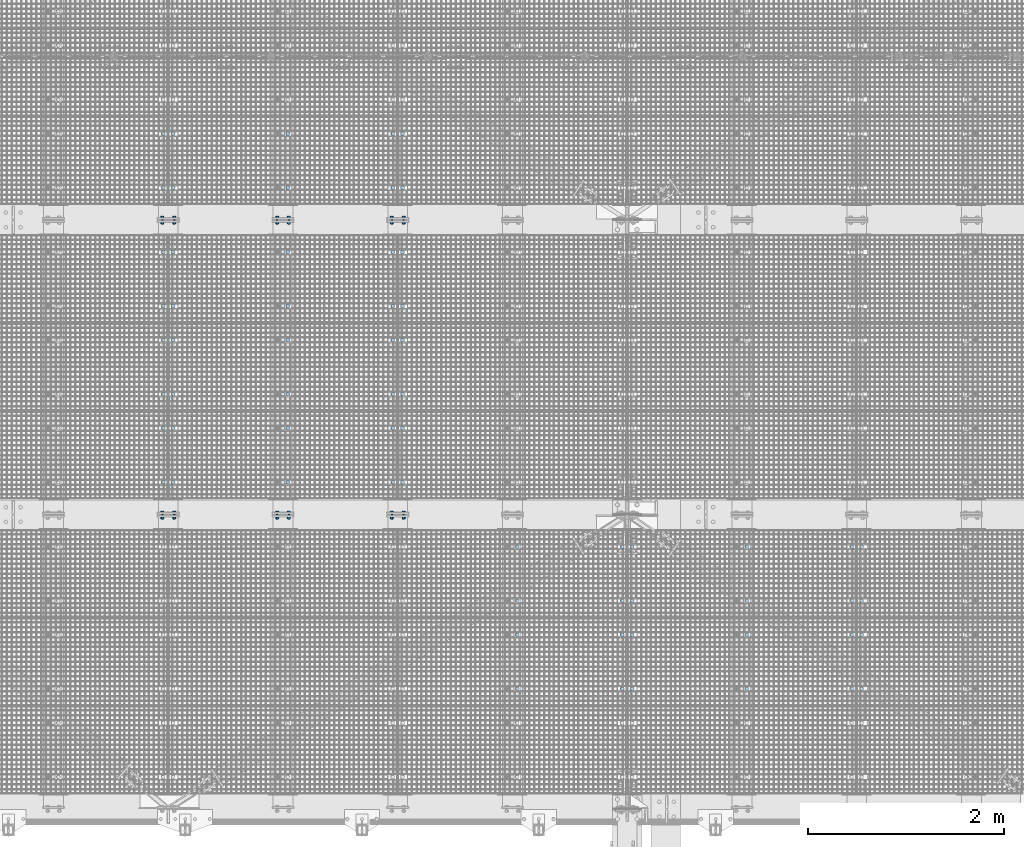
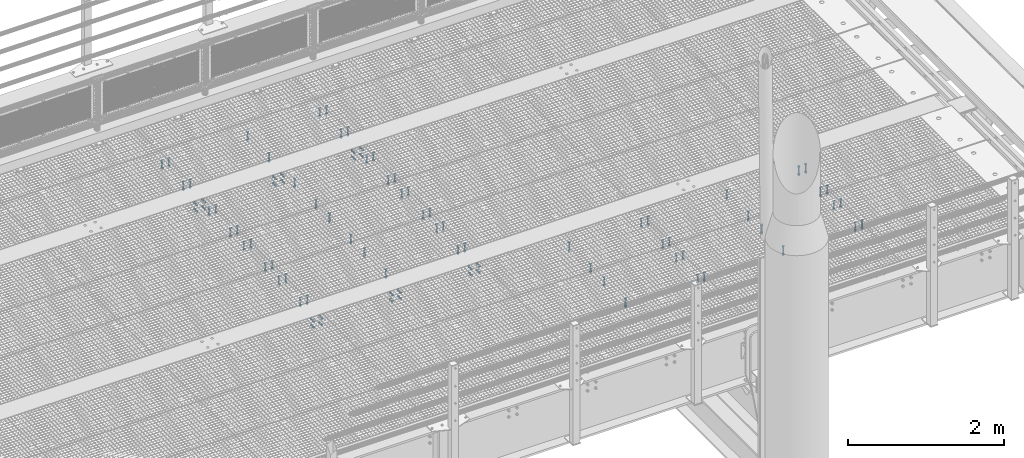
# One storey, part 26 of 1530: 38 mechanical fasteners.
"""IFC2X3 building model written with IfcOpenShell, lengths in millimetres."""

from ifc_helpers import new_model, si_unit, frame, origin_with_axes, place, context, subcontext, project, spatial, faceted_brep, source, transform, mapped, material, type_object, element, save


model = new_model("IFC2X3")

# Units and contexts
model_context = context("Model", 3, precision=1e-05, world=origin_with_axes())
body_context = subcontext(model_context, "Body", "Model", "MODEL_VIEW")
ifc_project = project(units=[si_unit("LENGTHUNIT", "METRE", prefix="MILLI"), si_unit("AREAUNIT", "SQUARE_METRE"), si_unit("VOLUMEUNIT", "CUBIC_METRE"), si_unit("MASSUNIT", "GRAM", prefix="KILO"), si_unit("TIMEUNIT", "SECOND"), si_unit("PLANEANGLEUNIT", "RADIAN"), si_unit("SOLIDANGLEUNIT", "STERADIAN"), si_unit("THERMODYNAMICTEMPERATUREUNIT", "DEGREE_CELSIUS"), si_unit("LUMINOUSINTENSITYUNIT", "LUMEN")], contexts=[model_context])

# Site, building, storey
site_placement = place(None, origin_with_axes())
site = spatial("IfcSite", under=ifc_project, at=site_placement, Name="Brattvåg", CompositionType="ELEMENT")
building_placement = place(site_placement, origin_with_axes())
building = spatial("IfcBuilding", under=site, at=building_placement, Name="Undefined", CompositionType="ELEMENT")
storey_placement = place(building_placement, origin_with_axes())
storey = spatial("IfcBuildingStorey", under=building, at=storey_placement, Name="Undefined", CompositionType="ELEMENT", Elevation=0.0)

# Mechanical fasteners
ifc_material = material(Name="8")
mechanical_fastener_type = type_object("IfcMechanicalFastenerType", Name="Bolt assembly")
shared_shape_1 = source(origin_with_axes(), body_context, "Body", "Brep", [
    faceted_brep([(17.3205080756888, -10.5, 0.0), (8.66025403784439, -10.5, 15.0), (-8.66025403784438, -10.5, 15.0), (-17.3205080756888, -10.5, 2.12115047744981e-15), (-8.66025403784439, -10.5, -15.0), (8.66025403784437, -10.5, -15.0), (8.66025403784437, 2.0, -15.0), (-8.66025403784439, 2.0, -15.0), (-17.3205080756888, 2.0, 2.12115047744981e-15), (-8.66025403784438, 2.0, 15.0), (8.66025403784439, 2.0, 15.0), (17.3205080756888, 2.0, 0.0), (10.0, 2.0, 0.0), (8.66025403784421, 2.0, 5.0000000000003), (4.9999999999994, 2.0, 8.66025403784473), (-1.03633598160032e-12, 2.0, 10.0), (-5.00000000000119, 2.0, 8.6602540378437), (-8.66025403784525, 2.0, 4.99999999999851), (-10.0, 2.0, -2.07267196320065e-12), (-8.66025403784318, 2.0, -5.00000000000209), (-4.99999999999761, 2.0, -8.66025403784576), (3.09790571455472e-12, 2.0, -10.0), (5.00000000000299, 2.0, -8.66025403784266), (8.66025403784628, 2.0, -4.99999999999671), (8.66025403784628, 142.0, -4.99999999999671), (5.00000000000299, 142.0, -8.66025403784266), (3.09790571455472e-12, 142.0, -10.0), (-4.99999999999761, 142.0, -8.66025403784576), (-8.66025403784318, 142.0, -5.00000000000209), (-10.0, 142.0, -2.07267196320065e-12), (-8.66025403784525, 142.0, 4.99999999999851), (-5.00000000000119, 142.0, 8.6602540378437), (-1.03633598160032e-12, 142.0, 10.0), (4.9999999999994, 142.0, 8.66025403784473), (8.66025403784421, 142.0, 5.0000000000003), (10.0, 142.0, 0.0), (18.5, 2.0, 0.0), (16.0214699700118, 2.0, 9.25000000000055), (9.2499999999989, 2.0, 16.0214699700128), (-1.9172215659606e-12, 2.0, 18.5), (-9.25000000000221, 2.0, 16.0214699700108), (-16.0214699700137, 2.0, 9.24999999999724), (-18.5, 2.0, -3.83444313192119e-12), (-16.0214699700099, 2.0, -9.25000000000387), (-9.24999999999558, 2.0, -16.0214699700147), (5.73112557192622e-12, 2.0, -18.5), (9.25000000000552, 2.0, -16.0214699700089), (16.0214699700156, 2.0, -9.24999999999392), (16.0214699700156, 5.0, -9.24999999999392), (9.25000000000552, 5.0, -16.0214699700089), (5.73112557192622e-12, 5.0, -18.5), (-9.24999999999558, 5.0, -16.0214699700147), (-16.0214699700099, 5.0, -9.25000000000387), (-18.5, 5.0, -3.83444313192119e-12), (-16.0214699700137, 5.0, 9.24999999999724), (-9.25000000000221, 5.0, 16.0214699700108), (-1.9172215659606e-12, 5.0, 18.5), (9.2499999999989, 5.0, 16.0214699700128), (16.0214699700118, 5.0, 9.25000000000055), (18.5, 5.0, 0.0), (18.5, 109.998931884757, 0.0), (16.0214699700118, 109.998931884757, 9.25000000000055), (9.2499999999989, 109.998931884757, 16.0214699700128), (-1.9172215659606e-12, 109.998931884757, 18.5), (-9.25000000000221, 109.998931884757, 16.0214699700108), (-16.0214699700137, 109.998931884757, 9.24999999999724), (-18.5, 109.998931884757, -3.83444313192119e-12), (-16.0214699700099, 109.998931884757, -9.25000000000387), (-9.24999999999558, 109.998931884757, -16.0214699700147), (5.73112557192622e-12, 109.998931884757, -18.5), (9.25000000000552, 109.998931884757, -16.0214699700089), (16.0214699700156, 109.998931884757, -9.24999999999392), (16.0214699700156, 112.998931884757, -9.24999999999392), (9.25000000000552, 112.998931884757, -16.0214699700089), (5.73112557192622e-12, 112.998931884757, -18.5), (-9.24999999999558, 112.998931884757, -16.0214699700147), (-16.0214699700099, 112.998931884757, -9.25000000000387), (-18.5, 112.998931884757, -3.83444313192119e-12), (-16.0214699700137, 112.998931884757, 9.24999999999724), (-9.25000000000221, 112.998931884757, 16.0214699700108), (-1.9172215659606e-12, 112.998931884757, 18.5), (9.2499999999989, 112.998931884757, 16.0214699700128), (16.0214699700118, 112.998931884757, 9.25000000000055), (18.5, 112.998931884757, 0.0), (17.3205080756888, 112.998931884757, 0.0), (8.66025403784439, 112.998931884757, 15.0), (-8.66025403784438, 112.998931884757, 15.0), (-17.3205080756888, 112.998931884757, 2.12115047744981e-15), (-8.66025403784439, 112.998931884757, -15.0), (8.66025403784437, 112.998931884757, -15.0), (8.66025403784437, 130.998931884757, -15.0), (-8.66025403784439, 130.998931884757, -15.0), (-17.3205080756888, 130.998931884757, 2.12115047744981e-15), (-8.66025403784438, 130.998931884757, 15.0), (8.66025403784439, 130.998931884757, 15.0), (17.3205080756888, 130.998931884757, 0.0)], [[[0, 1, 2, 3, 4, 5]], [[6, 7, 8, 9, 10, 11]], [[0, 11, 10, 1]], [[1, 10, 9, 2]], [[2, 9, 8, 3]], [[3, 8, 7, 4]], [[4, 7, 6, 5]], [[5, 6, 11, 0]], [[12, 13, 14, 15, 16, 17, 18, 19, 20, 21, 22, 23]], [[24, 25, 26, 27, 28, 29, 30, 31, 32, 33, 34, 35]], [[12, 35, 34, 13]], [[13, 34, 33, 14]], [[14, 33, 32, 15]], [[15, 32, 31, 16]], [[16, 31, 30, 17]], [[17, 30, 29, 18]], [[18, 29, 28, 19]], [[19, 28, 27, 20]], [[20, 27, 26, 21]], [[21, 26, 25, 22]], [[22, 25, 24, 23]], [[23, 24, 35, 12]], [[36, 37, 38, 39, 40, 41, 42, 43, 44, 45, 46, 47]], [[48, 49, 50, 51, 52, 53, 54, 55, 56, 57, 58, 59]], [[36, 59, 58, 37]], [[37, 58, 57, 38]], [[38, 57, 56, 39]], [[39, 56, 55, 40]], [[40, 55, 54, 41]], [[41, 54, 53, 42]], [[42, 53, 52, 43]], [[43, 52, 51, 44]], [[44, 51, 50, 45]], [[45, 50, 49, 46]], [[46, 49, 48, 47]], [[47, 48, 59, 36]], [[60, 61, 62, 63, 64, 65, 66, 67, 68, 69, 70, 71]], [[72, 73, 74, 75, 76, 77, 78, 79, 80, 81, 82, 83]], [[60, 83, 82, 61]], [[61, 82, 81, 62]], [[62, 81, 80, 63]], [[63, 80, 79, 64]], [[64, 79, 78, 65]], [[65, 78, 77, 66]], [[66, 77, 76, 67]], [[67, 76, 75, 68]], [[68, 75, 74, 69]], [[69, 74, 73, 70]], [[70, 73, 72, 71]], [[71, 72, 83, 60]], [[84, 85, 86, 87, 88, 89]], [[90, 91, 92, 93, 94, 95]], [[84, 95, 94, 85]], [[85, 94, 93, 86]], [[86, 93, 92, 87]], [[87, 92, 91, 88]], [[88, 91, 90, 89]], [[89, 90, 95, 84]]]),
])
for number, where, z_axis, x_axis, name in (
    (1, (14636.0047793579, 2121.91931152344, -25.0), (-1.0, 1.99999855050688e-09, 0.0), (0.0, 1.0, 0.0), "Bolt assembly"),
    (2, (14636.0047793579, 1224.91931152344, -25.0), (-1.0, 1.99999855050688e-09, 0.0), (0.0, 1.0, 0.0), "Bolt assembly"),
    (3, (9964.00477935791, 6327.91931152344, -25.0), (-1.0, 1.99999855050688e-09, 0.0), (0.0, 1.0, 0.0), "Bolt assembly"),
    (4, (9864.01487731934, 6327.9204864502, -25.0), (-1.0, 1.99999855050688e-09, 0.0), (0.0, 1.0, 0.0), "Bolt assembly"),
    (5, (8796.01192543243, 6327.99, -25.0), (-1.0, 1.99999855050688e-09, 0.0), (0.0, 1.0, 0.0), "Bolt assembly"),
    (6, (7628.00477935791, 6327.91931152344, -25.0), (-1.0, 1.99999855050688e-09, 0.0), (0.0, 1.0, 0.0), "Bolt assembly"),
    (7, (7528.01487731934, 6327.9204864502, -25.0), (-1.0, 1.99999855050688e-09, 0.0), (0.0, 1.0, 0.0), "Bolt assembly"),
    (8, (9964.00477935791, 5121.91931152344, -25.0), (-1.0, 1.99999855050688e-09, 0.0), (0.0, 1.0, 0.0), "Bolt assembly"),
    (9, (9864.01487731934, 5121.9204864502, -25.0), (-1.0, 1.99999855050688e-09, 0.0), (0.0, 1.0, 0.0), "Bolt assembly"),
    (10, (8796.01192543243, 5121.99, -25.0), (-1.0, 1.99999855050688e-09, 0.0), (0.0, 1.0, 0.0), "Bolt assembly"),
    (11, (7628.00477935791, 5121.91931152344, -25.0), (-1.0, 1.99999855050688e-09, 0.0), (0.0, 1.0, 0.0), "Bolt assembly"),
    (12, (7528.01487731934, 5121.9204864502, -25.0), (-1.0, 1.99999855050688e-09, 0.0), (0.0, 1.0, 0.0), "Bolt assembly"),
    (13, (9964.00477935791, 4224.91931152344, -25.0), (-1.0, 1.99999855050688e-09, 0.0), (0.0, 1.0, 0.0), "Bolt assembly"),
    (14, (9864.01487731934, 4224.9204864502, -25.0), (-1.0, 1.99999855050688e-09, 0.0), (0.0, 1.0, 0.0), "Bolt assembly"),
    (15, (8796.01192543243, 4224.99, -25.0), (-1.0, 1.99999855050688e-09, 0.0), (0.0, 1.0, 0.0), "Bolt assembly"),
    (16, (7628.00477935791, 4224.91931152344, -25.0), (-1.0, 1.99999855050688e-09, 0.0), (0.0, 1.0, 0.0), "Bolt assembly"),
    (17, (7528.01487731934, 4224.9204864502, -25.0), (-1.0, 1.99999855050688e-09, 0.0), (0.0, 1.0, 0.0), "Bolt assembly"),
    (18, (9964.00477935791, 3327.91931152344, -25.0), (-1.0, 1.99999855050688e-09, 0.0), (0.0, 1.0, 0.0), "Bolt assembly"),
    (19, (9864.01487731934, 3327.9204864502, -25.0), (-1.0, 1.99999855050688e-09, 0.0), (0.0, 1.0, 0.0), "Bolt assembly"),
    (20, (8796.01192543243, 3327.99, -25.0), (-1.0, 1.99999855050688e-09, 0.0), (0.0, 1.0, 0.0), "Bolt assembly"),
    (21, (7628.00477935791, 3327.91931152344, -25.0), (-1.0, 1.99999855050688e-09, 0.0), (0.0, 1.0, 0.0), "Bolt assembly"),
    (22, (7528.01487731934, 3327.9204864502, -25.0), (-1.0, 1.99999855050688e-09, 0.0), (0.0, 1.0, 0.0), "Bolt assembly"),
    (23, (14536.0148773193, 2121.9204864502, -25.0), (-1.0, 1.99999855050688e-09, 0.0), (0.0, 1.0, 0.0), "Bolt assembly"),
    (24, (13468.0119254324, 2121.99, -25.0), (-1.0, 1.99999855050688e-09, 0.0), (0.0, 1.0, 0.0), "Bolt assembly"),
    (25, (12300.0047793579, 2121.91931152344, -25.0), (-1.0, 1.99999855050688e-09, 0.0), (0.0, 1.0, 0.0), "Bolt assembly"),
    (26, (12200.0148773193, 2121.9204864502, -25.0), (-1.0, 1.99999855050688e-09, 0.0), (0.0, 1.0, 0.0), "Bolt assembly"),
    (27, (11132.0119254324, 2121.99, -25.0), (-1.0, 1.99999855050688e-09, 0.0), (0.0, 1.0, 0.0), "Bolt assembly"),
    (28, (14536.0148773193, 1224.9204864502, -25.0), (-1.0, 1.99999855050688e-09, 0.0), (0.0, 1.0, 0.0), "Bolt assembly"),
    (29, (13468.0119254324, 1224.99, -25.0), (-1.0, 1.99999855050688e-09, 0.0), (0.0, 1.0, 0.0), "Bolt assembly"),
    (30, (12300.0047793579, 1224.91931152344, -25.0), (-1.0, 1.99999855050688e-09, 0.0), (0.0, 1.0, 0.0), "Bolt assembly"),
    (31, (12200.0148773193, 1224.9204864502, -25.0), (-1.0, 1.99999855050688e-09, 0.0), (0.0, 1.0, 0.0), "Bolt assembly"),
    (32, (11132.0119254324, 1224.99, -25.0), (-1.0, 1.99999855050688e-09, 0.0), (0.0, 1.0, 0.0), "Bolt assembly"),
):
    element("IfcMechanicalFastener", number, at=place(storey_placement, frame(where, z_axis=z_axis, x_axis=x_axis)), inside=storey, type_object=mechanical_fastener_type, material=ifc_material, Name=name, NominalDiameter=20.0, NominalLength=140.0, context=body_context, shape_type="MappedRepresentation", body=[
        mapped(shared_shape_1, transform((0.0, 0.0, 0.0))),
        mapped(shared_shape_1, transform((549.999999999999, 0.0, 0.0))),
    ])
shared_shape_2 = source(origin_with_axes(), body_context, "Body", "Brep", [
    faceted_brep([(17.3205080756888, -15.5000000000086, 0.0), (8.66025403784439, -15.5000000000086, 15.0), (-8.66025403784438, -15.5000000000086, 15.0), (-17.3205080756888, -15.5000000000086, 2.12115047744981e-15), (-8.66025403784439, -15.5000000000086, -15.0), (8.66025403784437, -15.5000000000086, -15.0), (8.66025403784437, -3.00000000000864, -15.0), (-8.66025403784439, -3.00000000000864, -15.0), (-17.3205080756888, -3.00000000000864, 2.12115047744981e-15), (-8.66025403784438, -3.00000000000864, 15.0), (8.66025403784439, -3.00000000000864, 15.0), (17.3205080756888, -3.00000000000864, 0.0), (10.0, -3.00000000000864, 0.0), (8.66025403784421, -3.00000000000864, 5.0000000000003), (4.9999999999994, -3.00000000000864, 8.66025403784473), (-1.03633598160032e-12, -3.00000000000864, 10.0), (-5.00000000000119, -3.00000000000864, 8.6602540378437), (-8.66025403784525, -3.00000000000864, 4.99999999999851), (-10.0, -3.00000000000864, -2.07267196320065e-12), (-8.66025403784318, -3.00000000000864, -5.00000000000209), (-4.99999999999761, -3.00000000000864, -8.66025403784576), (3.09790571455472e-12, -3.00000000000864, -10.0), (5.00000000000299, -3.00000000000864, -8.66025403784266), (8.66025403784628, -3.00000000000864, -4.99999999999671), (8.66025403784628, 72.0, -4.99999999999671), (5.00000000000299, 72.0, -8.66025403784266), (3.09790571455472e-12, 72.0, -10.0), (-4.99999999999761, 72.0, -8.66025403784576), (-8.66025403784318, 72.0, -5.00000000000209), (-10.0, 72.0, -2.07267196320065e-12), (-8.66025403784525, 72.0, 4.99999999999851), (-5.00000000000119, 72.0, 8.6602540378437), (-1.03633598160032e-12, 72.0, 10.0), (4.9999999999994, 72.0, 8.66025403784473), (8.66025403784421, 72.0, 5.0000000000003), (10.0, 72.0, 0.0), (18.5, -3.00000000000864, 0.0), (16.0214699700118, -3.00000000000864, 9.25000000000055), (9.2499999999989, -3.00000000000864, 16.0214699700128), (-1.9172215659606e-12, -3.00000000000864, 18.5), (-9.25000000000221, -3.00000000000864, 16.0214699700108), (-16.0214699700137, -3.00000000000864, 9.24999999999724), (-18.5, -3.00000000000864, -3.83444313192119e-12), (-16.0214699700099, -3.00000000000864, -9.25000000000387), (-9.24999999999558, -3.00000000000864, -16.0214699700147), (5.73112557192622e-12, -3.00000000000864, -18.5), (9.25000000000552, -3.00000000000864, -16.0214699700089), (16.0214699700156, -3.00000000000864, -9.24999999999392), (16.0214699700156, -8.64019966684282e-12, -9.24999999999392), (9.25000000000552, -8.64019966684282e-12, -16.0214699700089), (5.73112557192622e-12, -8.64019966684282e-12, -18.5), (-9.24999999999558, -8.64019966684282e-12, -16.0214699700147), (-16.0214699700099, -8.64019966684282e-12, -9.25000000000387), (-18.5, -8.64019966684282e-12, -3.83444313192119e-12), (-16.0214699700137, -8.64019966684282e-12, 9.24999999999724), (-9.25000000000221, -8.64019966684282e-12, 16.0214699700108), (-1.9172215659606e-12, -8.64019966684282e-12, 18.5), (9.2499999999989, -8.64019966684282e-12, 16.0214699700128), (16.0214699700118, -8.64019966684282e-12, 9.25000000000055), (18.5, -8.64019966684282e-12, 0.0), (18.5, 46.000061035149, 0.0), (16.0214699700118, 46.000061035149, 9.25000000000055), (9.2499999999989, 46.000061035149, 16.0214699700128), (-1.9172215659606e-12, 46.000061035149, 18.5), (-9.25000000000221, 46.000061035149, 16.0214699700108), (-16.0214699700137, 46.000061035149, 9.24999999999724), (-18.5, 46.000061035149, -3.83444313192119e-12), (-16.0214699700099, 46.000061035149, -9.25000000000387), (-9.24999999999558, 46.000061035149, -16.0214699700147), (5.73112557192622e-12, 46.000061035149, -18.5), (9.25000000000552, 46.000061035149, -16.0214699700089), (16.0214699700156, 46.000061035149, -9.24999999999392), (16.0214699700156, 49.000061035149, -9.24999999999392), (9.25000000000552, 49.000061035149, -16.0214699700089), (5.73112557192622e-12, 49.000061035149, -18.5), (-9.24999999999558, 49.000061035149, -16.0214699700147), (-16.0214699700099, 49.000061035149, -9.25000000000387), (-18.5, 49.000061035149, -3.83444313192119e-12), (-16.0214699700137, 49.000061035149, 9.24999999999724), (-9.25000000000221, 49.000061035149, 16.0214699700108), (-1.9172215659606e-12, 49.000061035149, 18.5), (9.2499999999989, 49.000061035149, 16.0214699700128), (16.0214699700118, 49.000061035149, 9.25000000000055), (18.5, 49.000061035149, 0.0), (17.3205080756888, 49.000061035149, 0.0), (8.66025403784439, 49.000061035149, 15.0), (-8.66025403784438, 49.000061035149, 15.0), (-17.3205080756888, 49.000061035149, 2.12115047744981e-15), (-8.66025403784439, 49.000061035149, -15.0), (8.66025403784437, 49.000061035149, -15.0), (8.66025403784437, 67.000061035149, -15.0), (-8.66025403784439, 67.000061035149, -15.0), (-17.3205080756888, 67.000061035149, 2.12115047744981e-15), (-8.66025403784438, 67.000061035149, 15.0), (8.66025403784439, 67.000061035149, 15.0), (17.3205080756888, 67.000061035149, 0.0)], [[[0, 1, 2, 3, 4, 5]], [[6, 7, 8, 9, 10, 11]], [[0, 11, 10, 1]], [[1, 10, 9, 2]], [[2, 9, 8, 3]], [[3, 8, 7, 4]], [[4, 7, 6, 5]], [[5, 6, 11, 0]], [[12, 13, 14, 15, 16, 17, 18, 19, 20, 21, 22, 23]], [[24, 25, 26, 27, 28, 29, 30, 31, 32, 33, 34, 35]], [[12, 35, 34, 13]], [[13, 34, 33, 14]], [[14, 33, 32, 15]], [[15, 32, 31, 16]], [[16, 31, 30, 17]], [[17, 30, 29, 18]], [[18, 29, 28, 19]], [[19, 28, 27, 20]], [[20, 27, 26, 21]], [[21, 26, 25, 22]], [[22, 25, 24, 23]], [[23, 24, 35, 12]], [[36, 37, 38, 39, 40, 41, 42, 43, 44, 45, 46, 47]], [[48, 49, 50, 51, 52, 53, 54, 55, 56, 57, 58, 59]], [[36, 59, 58, 37]], [[37, 58, 57, 38]], [[38, 57, 56, 39]], [[39, 56, 55, 40]], [[40, 55, 54, 41]], [[41, 54, 53, 42]], [[42, 53, 52, 43]], [[43, 52, 51, 44]], [[44, 51, 50, 45]], [[45, 50, 49, 46]], [[46, 49, 48, 47]], [[47, 48, 59, 36]], [[60, 61, 62, 63, 64, 65, 66, 67, 68, 69, 70, 71]], [[72, 73, 74, 75, 76, 77, 78, 79, 80, 81, 82, 83]], [[60, 83, 82, 61]], [[61, 82, 81, 62]], [[62, 81, 80, 63]], [[63, 80, 79, 64]], [[64, 79, 78, 65]], [[65, 78, 77, 66]], [[66, 77, 76, 67]], [[67, 76, 75, 68]], [[68, 75, 74, 69]], [[69, 74, 73, 70]], [[70, 73, 72, 71]], [[71, 72, 83, 60]], [[84, 85, 86, 87, 88, 89]], [[90, 91, 92, 93, 94, 95]], [[84, 95, 94, 85]], [[85, 94, 93, 86]], [[86, 93, 92, 87]], [[87, 92, 91, 88]], [[88, 91, 90, 89]], [[89, 90, 95, 84]]]),
    faceted_brep([(11.0, 0.1, 0.0), (9.52627944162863, 0.1, 5.50000000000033), (5.49999999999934, 0.1, 9.5262794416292), (-1.13996957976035e-12, 0.1, 11.0), (-5.50000000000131, 0.1, 9.52627944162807), (-9.52627944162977, 0.1, 5.49999999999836), (-11.0, 0.1, -2.27993915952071e-12), (-9.5262794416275, 0.1, -5.5000000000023), (-5.49999999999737, 0.1, -9.52627944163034), (3.40769628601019e-12, 0.1, -11.0), (5.50000000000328, 0.1, -9.52627944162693), (9.52627944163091, 0.1, -5.49999999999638), (9.52627944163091, 15.1, -5.49999999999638), (5.50000000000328, 15.1, -9.52627944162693), (3.40769628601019e-12, 15.1, -11.0), (-5.49999999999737, 15.1, -9.52627944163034), (-9.5262794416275, 15.1, -5.5000000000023), (-11.0, 15.1, -2.27993915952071e-12), (-9.52627944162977, 15.1, 5.49999999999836), (-5.50000000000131, 15.1, 9.52627944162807), (-1.13996957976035e-12, 15.1, 11.0), (5.49999999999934, 15.1, 9.5262794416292), (9.52627944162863, 15.1, 5.50000000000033), (11.0, 15.1, 0.0), (11.0, 15.0015563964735, 0.0), (9.52627944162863, 15.0015563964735, 5.50000000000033), (5.49999999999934, 15.0015563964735, 9.5262794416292), (-1.13996957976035e-12, 15.0015563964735, 11.0), (-5.50000000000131, 15.0015563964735, 9.52627944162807), (-9.52627944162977, 15.0015563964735, 5.49999999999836), (-11.0, 15.0015563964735, -2.27993915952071e-12), (-9.5262794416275, 15.0015563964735, -5.5000000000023), (-5.49999999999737, 15.0015563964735, -9.52627944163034), (3.40769628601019e-12, 15.0015563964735, -11.0), (5.50000000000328, 15.0015563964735, -9.52627944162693), (9.52627944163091, 15.0015563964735, -5.49999999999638), (9.52627944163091, 31.0015563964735, -5.49999999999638), (5.50000000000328, 31.0015563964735, -9.52627944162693), (3.40769628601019e-12, 31.0015563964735, -11.0), (-5.49999999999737, 31.0015563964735, -9.52627944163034), (-9.5262794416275, 31.0015563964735, -5.5000000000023), (-11.0, 31.0015563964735, -2.27993915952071e-12), (-9.52627944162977, 31.0015563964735, 5.49999999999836), (-5.50000000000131, 31.0015563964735, 9.52627944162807), (-1.13996957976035e-12, 31.0015563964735, 11.0), (5.49999999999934, 31.0015563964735, 9.5262794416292), (9.52627944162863, 31.0015563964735, 5.50000000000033), (11.0, 31.0015563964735, 0.0), (11.0, 30.900061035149, 0.0), (9.52627944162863, 30.900061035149, 5.50000000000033), (5.49999999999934, 30.900061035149, 9.5262794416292), (-1.13996957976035e-12, 30.900061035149, 11.0), (-5.50000000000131, 30.900061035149, 9.52627944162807), (-9.52627944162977, 30.900061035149, 5.49999999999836), (-11.0, 30.900061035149, -2.27993915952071e-12), (-9.5262794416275, 30.900061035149, -5.5000000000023), (-5.49999999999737, 30.900061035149, -9.52627944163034), (3.40769628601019e-12, 30.900061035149, -11.0), (5.50000000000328, 30.900061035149, -9.52627944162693), (9.52627944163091, 30.900061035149, -5.49999999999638), (9.52627944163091, 46.000061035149, -5.49999999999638), (5.50000000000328, 46.000061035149, -9.52627944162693), (3.40769628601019e-12, 46.000061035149, -11.0), (-5.49999999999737, 46.000061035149, -9.52627944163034), (-9.5262794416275, 46.000061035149, -5.5000000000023), (-11.0, 46.000061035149, -2.27993915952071e-12), (-9.52627944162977, 46.000061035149, 5.49999999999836), (-5.50000000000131, 46.000061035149, 9.52627944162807), (-1.13996957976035e-12, 46.000061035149, 11.0), (5.49999999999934, 46.000061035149, 9.5262794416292), (9.52627944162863, 46.000061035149, 5.50000000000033), (11.0, 46.000061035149, 0.0)], [[[0, 1, 2, 3, 4, 5, 6, 7, 8, 9, 10, 11]], [[12, 13, 14, 15, 16, 17, 18, 19, 20, 21, 22, 23]], [[0, 23, 22, 1]], [[1, 22, 21, 2]], [[2, 21, 20, 3]], [[3, 20, 19, 4]], [[4, 19, 18, 5]], [[5, 18, 17, 6]], [[6, 17, 16, 7]], [[7, 16, 15, 8]], [[8, 15, 14, 9]], [[9, 14, 13, 10]], [[10, 13, 12, 11]], [[11, 12, 23, 0]], [[24, 25, 26, 27, 28, 29, 30, 31, 32, 33, 34, 35]], [[36, 37, 38, 39, 40, 41, 42, 43, 44, 45, 46, 47]], [[24, 47, 46, 25]], [[25, 46, 45, 26]], [[26, 45, 44, 27]], [[27, 44, 43, 28]], [[28, 43, 42, 29]], [[29, 42, 41, 30]], [[30, 41, 40, 31]], [[31, 40, 39, 32]], [[32, 39, 38, 33]], [[33, 38, 37, 34]], [[34, 37, 36, 35]], [[35, 36, 47, 24]], [[48, 49, 50, 51, 52, 53, 54, 55, 56, 57, 58, 59]], [[60, 61, 62, 63, 64, 65, 66, 67, 68, 69, 70, 71]], [[48, 71, 70, 49]], [[49, 70, 69, 50]], [[50, 69, 68, 51]], [[51, 68, 67, 52]], [[52, 67, 66, 53]], [[53, 66, 65, 54]], [[54, 65, 64, 55]], [[55, 64, 63, 56]], [[56, 63, 62, 57]], [[57, 62, 61, 58]], [[58, 61, 60, 59]], [[59, 60, 71, 48]]]),
])
for number, where, z_axis, x_axis, name in (
    (33, (7638.00196838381, 6023.00155639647, -219.998836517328), (0.0, 0.0, 1.0), (-1.0, 1.99999855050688e-09, 0.0), "Bolt assembly"),
    (34, (8806.00196838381, 6023.00155639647, -219.998836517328), (0.0, 0.0, 1.0), (-1.0, 1.99999855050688e-09, 0.0), "Bolt assembly"),
    (35, (9974.00196838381, 6023.00155639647, -219.998836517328), (0.0, 0.0, 1.0), (-1.0, 1.99999855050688e-09, 0.0), "Bolt assembly"),
    (36, (9974.00196838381, 3023.00155639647, -219.998836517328), (0.0, 0.0, 1.0), (-1.0, 1.99999855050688e-09, 0.0), "Bolt assembly"),
    (37, (8806.00196838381, 3023.00155639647, -219.998836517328), (0.0, 0.0, 1.0), (-1.0, 1.99999855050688e-09, 0.0), "Bolt assembly"),
    (38, (7638.00196838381, 3023.00155639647, -219.998836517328), (0.0, 0.0, 1.0), (-1.0, 1.99999855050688e-09, 0.0), "Bolt assembly"),
):
    element("IfcMechanicalFastener", number, at=place(storey_placement, frame(where, z_axis=z_axis, x_axis=x_axis)), inside=storey, type_object=mechanical_fastener_type, material=ifc_material, Name=name, NominalDiameter=20.0, NominalLength=75.0, context=body_context, shape_type="MappedRepresentation", body=[
        mapped(shared_shape_2, transform((0.0, 0.0, -50.0))),
        mapped(shared_shape_2, transform((120.0, 0.0, -50.0))),
        mapped(shared_shape_2, transform((0.0, 0.0, 50.0))),
        mapped(shared_shape_2, transform((120.0, 0.0, 50.0))),
    ])

save(model, "model.ifc")
